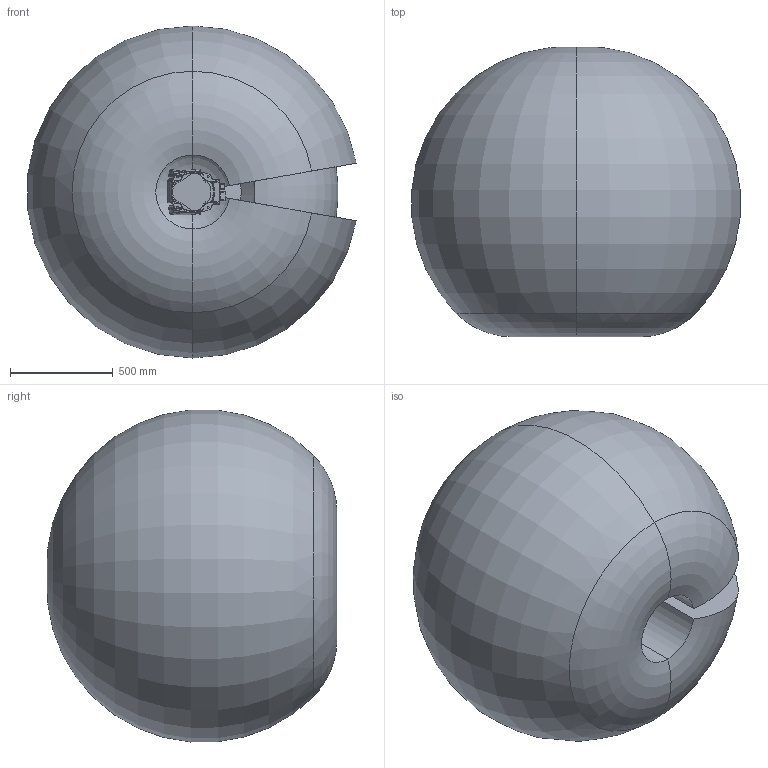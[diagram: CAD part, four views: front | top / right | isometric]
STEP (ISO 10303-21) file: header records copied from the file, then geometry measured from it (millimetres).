
FILE_DESCRIPTION (( 'STEP AP214' ), '1' );
FILE_NAME ('Racer5-0.80_p00.STEP', '2016-11-17T14:09:51', ( '' ), ( '' ), 'SwSTEP 2.0', 'SolidWorks 2014', '' );
FILE_SCHEMA (( 'AUTOMOTIVE_DESIGN' ));
Length unit declared in the file: millimetre
Products named in the file (11): Racer5-0.80_p00; Operation Area Racer5-0.80; Racer5-0.80_p09; Racer5-0.80_p08; Racer5-0.80_p07; Racer5-0.80_p06; Racer5-0.80_p05; Racer5-0.80_p04; Racer5-0.80_p03; Racer5-0.80_p02; Racer5-0.80_p01
Assembly tree (10 placements, depth 2):
  Racer5-0.80_p00
    Racer5-0.80_p01
    Racer5-0.80_p02
    Racer5-0.80_p03
    Racer5-0.80_p04
    Racer5-0.80_p05
    Racer5-0.80_p06
    Racer5-0.80_p07
    Racer5-0.80_p08
    Racer5-0.80_p09
    Operation Area Racer5-0.80
Bounding box: 1596.85 x 1408.23 x 1613.53 mm (x, y, z)
Volume: 1917476679.9 mm3; surface area: 11631548.2 mm2
Topology: 9 solids, 18 shells, 3021 faces, 8112 edges, 5146 vertices
Faces by surface type: bspline 1401, cylinder 688, plane 682, sphere 91, torus 81, cone 78
Entity records: 456577 total; most frequent: CARTESIAN_POINT 380612, ORIENTED_EDGE 15675, DIRECTION 9251, EDGE_CURVE 8054, VERTEX_POINT 5142, B_SPLINE_CURVE_WITH_KNOTS 3984, AXIS2_PLACEMENT_3D 3664, EDGE_LOOP 3243
